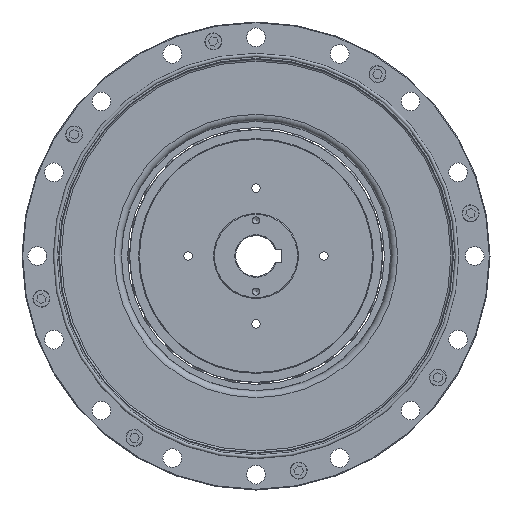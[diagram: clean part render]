
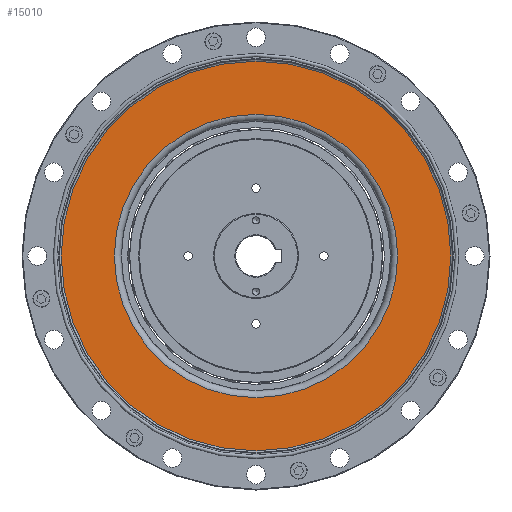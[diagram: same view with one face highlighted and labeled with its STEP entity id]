
A CAD part, left-side view. The second image highlights one B-rep face of the part: STEP entity #15010.
In plain terms, the highlighted planar face has unit normal (-1, 0, 0).
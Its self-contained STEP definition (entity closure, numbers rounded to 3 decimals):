
#1140 = DIRECTION ( 'NONE',  ( 0., 0., 1. ) ) ;
#2970 = AXIS2_PLACEMENT_3D ( 'NONE', #15773, #8481, #1140 ) ;
#3019 = CIRCLE ( 'NONE', #7105, 83.556 ) ;
#3686 = CARTESIAN_POINT ( 'NONE',  ( -86.21, 0., 83.556 ) ) ;
#4084 = EDGE_CURVE ( 'NONE', #10396, #10396, #3019, .T. ) ;
#4840 = CIRCLE ( 'NONE', #2970, 114.899 ) ;
#4869 = PLANE ( 'NONE',  #12716 ) ;
#5363 = FACE_OUTER_BOUND ( 'NONE', #7561, .T. ) ;
#6498 = CARTESIAN_POINT ( 'NONE',  ( -86.21, 0., 0. ) ) ;
#7105 = AXIS2_PLACEMENT_3D ( 'NONE', #6498, #14981, #7724 ) ;
#7321 = DIRECTION ( 'NONE',  ( 0., 0., -1. ) ) ;
#7550 = VERTEX_POINT ( 'NONE', #7993 ) ;
#7561 = EDGE_LOOP ( 'NONE', ( #9692 ) ) ;
#7724 = DIRECTION ( 'NONE',  ( 0., 0., 1. ) ) ;
#7993 = CARTESIAN_POINT ( 'NONE',  ( -86.21, 0., 114.899 ) ) ;
#8201 = FACE_BOUND ( 'NONE', #12321, .T. ) ;
#8481 = DIRECTION ( 'NONE',  ( -1., 0., 0. ) ) ;
#9468 = ORIENTED_EDGE ( 'NONE', *, *, #4084, .F. ) ;
#9692 = ORIENTED_EDGE ( 'NONE', *, *, #9887, .T. ) ;
#9887 = EDGE_CURVE ( 'NONE', #7550, #7550, #4840, .T. ) ;
#10396 = VERTEX_POINT ( 'NONE', #3686 ) ;
#12321 = EDGE_LOOP ( 'NONE', ( #9468 ) ) ;
#12716 = AXIS2_PLACEMENT_3D ( 'NONE', #13336, #14566, #7321 ) ;
#13336 = CARTESIAN_POINT ( 'NONE',  ( -86.21, 0., 0. ) ) ;
#14566 = DIRECTION ( 'NONE',  ( 1., 0., 0. ) ) ;
#14981 = DIRECTION ( 'NONE',  ( -1., 0., 0. ) ) ;
#15010 = ADVANCED_FACE ( 'NONE', ( #8201, #5363 ), #4869, .F. ) ;
#15773 = CARTESIAN_POINT ( 'NONE',  ( -86.21, 0., 0. ) ) ;
